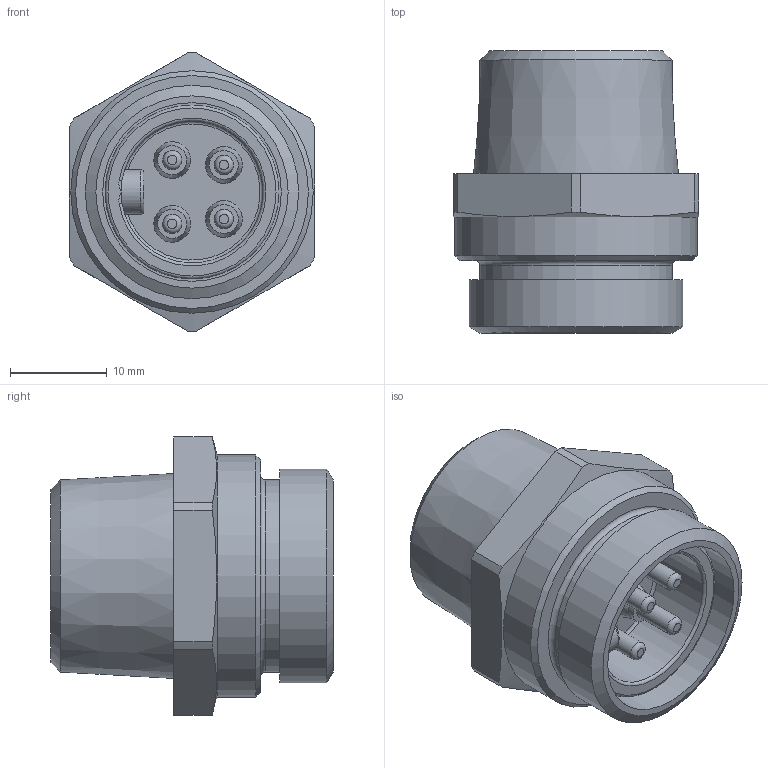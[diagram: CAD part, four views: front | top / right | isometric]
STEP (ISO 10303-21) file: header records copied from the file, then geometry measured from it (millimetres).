
FILE_DESCRIPTION (( 'STEP AP203' ), '1' );
FILE_NAME ('P-PWR-RSF_44-14_5NPT.step', '2020-06-13T16:54:08', ( '' ), ( '' ), 'SwSTEP 2.0', 'SolidWorks 2017', '' );
FILE_SCHEMA (( 'CONFIG_CONTROL_DESIGN' ));
Length unit declared in the file: millimetre
Products named in the file (1): P-PWR-RSF_44-14_5NPT
Bounding box: 25.4 x 29.2 x 28.8 mm (x, y, z)
Volume: 9806.4 mm3; surface area: 5250.5 mm2
Topology: 1 solids, 5 shells, 92 faces, 204 edges, 130 vertices
Faces by surface type: cylinder 35, plane 29, cone 17, torus 9, bspline 2
Full cylindrical faces by diameter (mm): 1.98 x8, 2 x8, 3 x4, 18 x1, 18.5 x1, 19.9 x1, 22.092 x1, 25.1 x1
Entity records: 2302 total; most frequent: CARTESIAN_POINT 481, DIRECTION 389, ORIENTED_EDGE 264, AXIS2_PLACEMENT_3D 180, EDGE_LOOP 158, EDGE_CURVE 132, FACE_OUTER_BOUND 123, VERTEX_POINT 108
